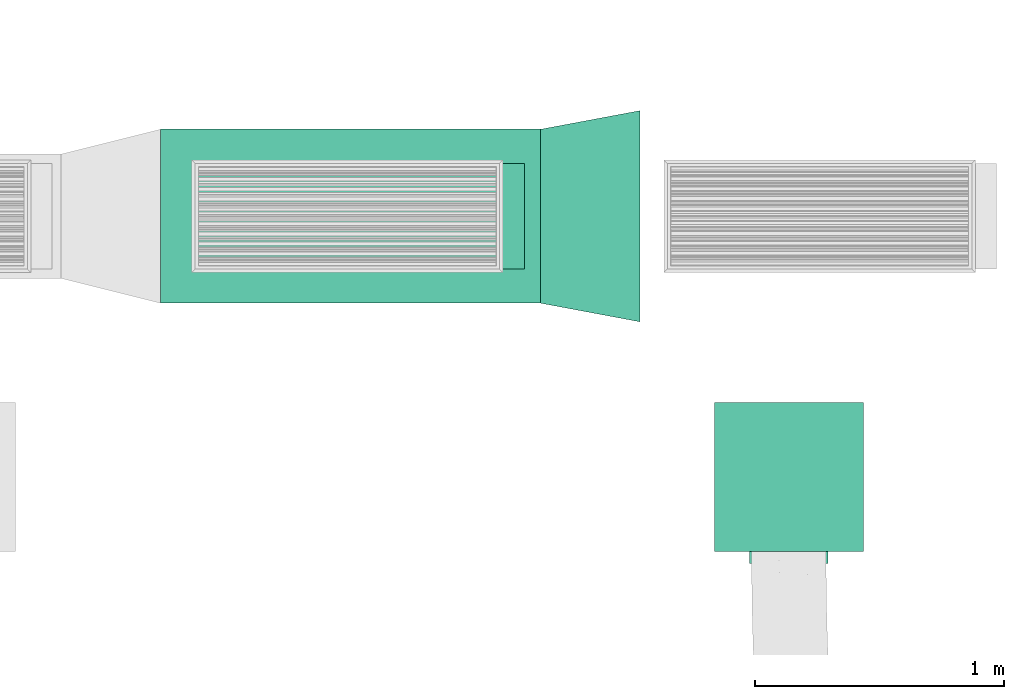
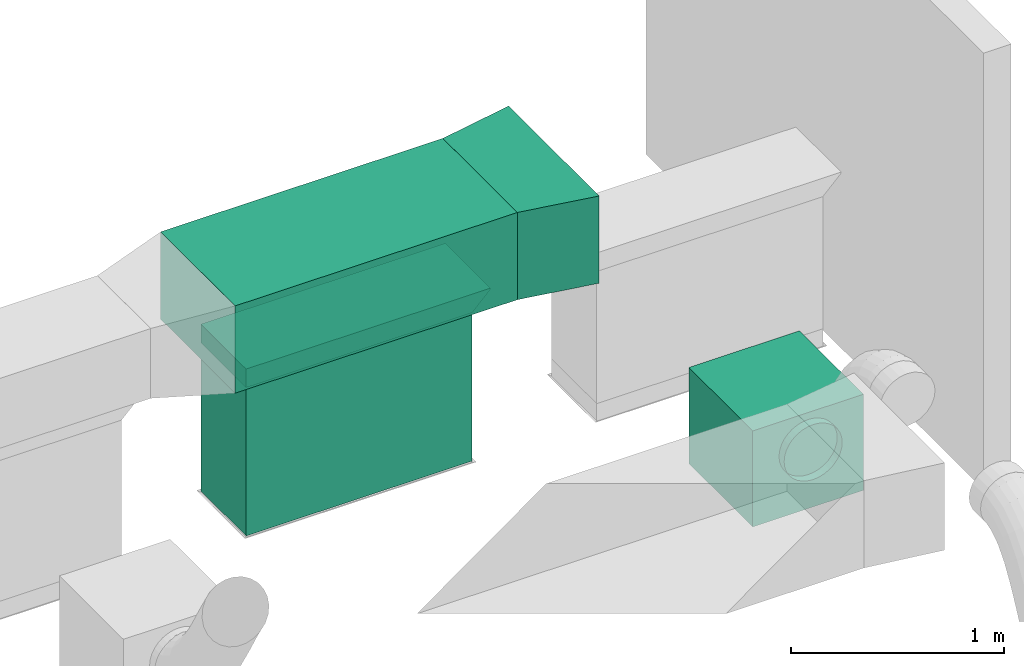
# One storey, part 11 of 60: 2 flow fittings, 2 flow segments, 1 flow terminal.
"""IFC2X3 building model written with IfcOpenShell, lengths in millimetres."""

from ifc_helpers import new_model, entity, si_unit, converted_unit, derived_unit, direction, frame, frame_2d, origin, place, context, subcontext, project, spatial, polyline, rectangle, outline, extrude, face_set, surface_model, source, transform, mapped, material, type_object, type_shapes, element, save


model = new_model("IFC2X3")

# Units and contexts
model_context = context("Model", 3, precision=0.01, world=origin(), true_north=direction((6.123233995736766e-17, 1.0)))
body_context = subcontext(model_context, "Body", "Model", "MODEL_VIEW")
ifc_project = project(units=[si_unit("LENGTHUNIT", "METRE", prefix="MILLI"), converted_unit("PLANEANGLEUNIT", "DEGREE", entity("IfcPlaneAngleMeasure", 0.017453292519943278), si_unit("PLANEANGLEUNIT", "RADIAN"), dimensions=[0, 0, 0, 0, 0, 0, 0]), si_unit("AREAUNIT", "SQUARE_METRE"), derived_unit("THERMALTRANSMITTANCEUNIT", [(si_unit("MASSUNIT", "GRAM", prefix="KILO"), 1), (si_unit("THERMODYNAMICTEMPERATUREUNIT", "KELVIN"), -1), (si_unit("TIMEUNIT", "SECOND"), -3)])], contexts=[model_context])

# Site, building, storey
site_placement = place(None, origin())
site = spatial("IfcSite", under=ifc_project, at=site_placement, Name="Default", CompositionType="ELEMENT")
building_placement = place(site_placement, origin())
building = spatial("IfcBuilding", under=site, at=building_placement, Name="Praça Pedro II, 1301 - Centro (Sul), Teresina - PI, 64001-100", CompositionType="ELEMENT")
storey_placement = place(building_placement, frame((0.0, 0.0, 6040.0)))
storey = spatial("IfcBuildingStorey", under=building, at=storey_placement, Name="2PAV", CompositionType="ELEMENT", Elevation=6040.0)

# Flow terminal
ifc_material = material(Name="<Unnamed>")
air_terminal_type = type_object("IfcAirTerminalType", Name="VD-HM 600:VD-HM 600", PredefinedType="NOTDEFINED", material=ifc_material)
shared_shape_1 = source(origin(), body_context, "Body", "SurfaceModel", [
    surface_model("IfcFaceBasedSurfaceModel", [(280.24999051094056, 280.0000057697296, -0.099993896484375), (-279.75000286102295, 280.0000057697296, -0.099993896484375), (-279.75000286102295, -280.0000057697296, -0.099993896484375), (280.24999051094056, -280.0000057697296, -0.099993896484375), (-300.75001101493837, 0.0, 510.50001697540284), (-300.75001101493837, -30.726726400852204, 507.4736755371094), (-300.75001101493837, 0.0, 353.0000012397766), (-300.75001101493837, -60.27264279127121, 498.51103219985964), (-300.75001101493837, -87.50230793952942, 483.9564700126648), (-300.75001101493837, -111.3693195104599, 464.3693298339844), (-300.75001101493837, -130.95645968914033, 440.5023273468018), (-300.75001101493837, -145.51102187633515, 413.272630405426), (-300.75001101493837, -154.47367429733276, 383.7267230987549), (-300.75001101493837, -157.4999975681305, 353.0000012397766), (-300.75001101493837, -154.47367429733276, 322.27327938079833), (-300.75001101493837, -145.51102187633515, 292.7273539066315), (-300.75001101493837, -130.95645968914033, 265.4976933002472), (-300.75001101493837, -111.3693195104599, 241.63069081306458), (-300.75001101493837, -87.50230793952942, 222.04353246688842), (-300.75001101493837, -60.27264279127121, 207.4889702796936), (-300.75001101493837, -30.726726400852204, 198.52632694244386), (-300.75001101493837, 0.0, 195.5000036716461), (-300.75001101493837, 30.726726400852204, 198.52632694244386), (-300.75001101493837, 60.27264279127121, 207.4889702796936), (-300.75001101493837, 87.50230793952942, 222.04353246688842), (-300.75001101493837, 111.3693195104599, 241.63069081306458), (-300.75001101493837, 130.95645968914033, 265.4976933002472), (-300.75001101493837, 145.51102187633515, 292.7273539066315), (-300.75001101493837, 154.47367429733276, 322.27327938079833), (-300.75001101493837, 157.4999975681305, 353.0000012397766), (-300.75001101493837, 154.47367429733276, 383.7267230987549), (-300.75001101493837, 145.51102187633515, 413.272630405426), (-300.75001101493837, 130.95645968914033, 440.5023273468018), (-300.75001101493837, 111.3693195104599, 464.3693298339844), (-300.75001101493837, 87.50230793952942, 483.9564700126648), (-300.75001101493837, 60.27264279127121, 498.51103219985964), (-300.75001101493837, 30.726726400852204, 507.4736755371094), (300.24998703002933, 300.0000022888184, 550.000004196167), (300.24998703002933, 300.0000022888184, 0.0), (-299.7499993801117, 300.0000022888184, 0.0), (-299.7499993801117, 300.0000022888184, 550.000004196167), (300.24998703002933, -300.0000022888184, 550.000004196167), (300.24998703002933, -300.0000022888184, 0.0), (-299.7499993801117, -300.0000022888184, 550.000004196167), (-299.7499993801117, -300.0000022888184, 0.0), (280.24999051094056, 280.0000057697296, -0.099993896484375), (10.250000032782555, 280.0000057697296, -0.099993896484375), (10.250000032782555, 256.6173123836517, -13.600005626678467), (280.24999051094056, 256.6173123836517, -13.600005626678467), (280.24999051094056, 253.0, -0.099993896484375), (10.250000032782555, 253.0, -0.099993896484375), (10.250000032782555, 229.61732525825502, -13.600005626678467), (280.24999051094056, 229.61732525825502, -13.600005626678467), (280.24999051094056, 225.99999518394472, -0.099993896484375), (10.250000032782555, 225.99999518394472, -0.099993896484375), (10.250000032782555, 202.61731996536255, -13.600005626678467), (280.24999051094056, 202.61731996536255, -13.600005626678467), (280.24999051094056, 199.000008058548, -0.099993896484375), (10.250000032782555, 199.000008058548, -0.099993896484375), (10.250000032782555, 175.6173146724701, -13.600005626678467), (280.24999051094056, 175.6173146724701, -13.600005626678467), (280.24999051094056, 172.00000276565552, -0.099993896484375), (10.250000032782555, 172.00000276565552, -0.099993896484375), (10.250000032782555, 148.61731846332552, -13.600005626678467), (280.24999051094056, 148.61731846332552, -13.600005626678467), (280.24999051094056, 144.99999747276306, -0.099993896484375), (10.250000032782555, 144.99999747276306, -0.099993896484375), (10.250000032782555, 121.61731317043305, -13.600005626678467), (280.24999051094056, 121.61731317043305, -13.600005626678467), (280.24999051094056, 118.00000126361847, -0.099993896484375), (10.250000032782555, 118.00000126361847, -0.099993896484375), (280.24999051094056, 94.61731696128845, -13.600005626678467), (10.250000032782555, 94.61731696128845, -13.600005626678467), (280.24999051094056, 90.99999597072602, -0.099993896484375), (10.250000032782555, 90.99999597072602, -0.099993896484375), (280.24999051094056, 67.61731621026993, -13.600005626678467), (10.250000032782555, 67.61731621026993, -13.600005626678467), (280.24999051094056, 63.99999976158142, -0.099993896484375), (10.250000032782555, 63.99999976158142, -0.099993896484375), (10.250000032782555, 40.61731545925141, -13.600005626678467), (280.24999051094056, 40.61731545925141, -13.600005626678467), (280.24999051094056, 36.999999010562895, -0.099993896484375), (10.250000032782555, 36.999999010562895, -0.099993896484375), (10.250000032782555, 13.617316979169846, -13.600005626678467), (280.24999051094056, 13.617316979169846, -13.600005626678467), (-9.74999989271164, -256.6173123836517, -13.600005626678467), (-279.75000286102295, -256.6173123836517, -13.600005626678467), (-279.75000286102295, -280.0000057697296, -0.099993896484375), (-9.74999989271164, -280.0000057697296, -0.099993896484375), (-9.74999989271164, -229.61732525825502, -13.600005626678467), (-279.75000286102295, -229.61732525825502, -13.600005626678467), (-279.75000286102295, -253.0, -0.099993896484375), (-9.74999989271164, -253.0, -0.099993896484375), (-9.74999989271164, -202.61731996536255, -13.600005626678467), (-279.75000286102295, -202.61731996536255, -13.600005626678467), (-279.75000286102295, -225.99999518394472, -0.099993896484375), (-9.74999989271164, -225.99999518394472, -0.099993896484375), (-9.74999989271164, -175.6173146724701, -13.600005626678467), (-279.75000286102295, -175.6173146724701, -13.600005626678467), (-279.75000286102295, -199.000008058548, -0.099993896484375), (-9.74999989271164, -199.000008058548, -0.099993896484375), (-9.74999989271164, -148.61731846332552, -13.600005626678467), (-279.75000286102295, -148.61731846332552, -13.600005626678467), (-279.75000286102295, -172.00000276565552, -0.099993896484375), (-9.74999989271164, -172.00000276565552, -0.099993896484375), (-9.74999989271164, -121.61731317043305, -13.600005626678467), (-279.75000286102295, -121.61731317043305, -13.600005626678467), (-279.75000286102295, -144.99999747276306, -0.099993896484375), (-9.74999989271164, -144.99999747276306, -0.099993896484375), (-9.74999989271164, -94.61731696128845, -13.600005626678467), (-279.75000286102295, -94.61731696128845, -13.600005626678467), (-279.75000286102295, -118.00000126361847, -0.099993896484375), (-9.74999989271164, -118.00000126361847, -0.099993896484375), (-9.74999989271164, -67.61731621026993, -13.600005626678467), (-279.75000286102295, -67.61731621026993, -13.600005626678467), (-279.75000286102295, -90.99999597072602, -0.099993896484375), (-9.74999989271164, -90.99999597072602, -0.099993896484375), (-9.74999989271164, -40.61731545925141, -13.600005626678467), (-279.75000286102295, -40.61731545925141, -13.600005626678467), (-279.75000286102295, -63.99999976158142, -0.099993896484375), (-9.74999989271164, -63.99999976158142, -0.099993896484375), (-9.74999989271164, -13.617316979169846, -13.600005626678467), (-279.75000286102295, -13.617316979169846, -13.600005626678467), (-279.75000286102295, -36.999999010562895, -0.099993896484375), (-9.74999989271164, -36.999999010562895, -0.099993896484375), (280.24999051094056, -10.000000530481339, -0.099993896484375), (256.100465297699, -10.000000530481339, -12.174765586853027), (256.100465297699, -280.0000057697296, -12.174765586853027), (280.24999051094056, -280.0000057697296, -0.099993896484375), (253.25000338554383, -10.000000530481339, -0.099993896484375), (229.10046000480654, -10.000000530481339, -12.174765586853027), (229.10046000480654, -280.0000057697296, -12.174765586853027), (253.25000338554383, -280.0000057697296, -0.099993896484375), (226.24999809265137, -10.000000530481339, -0.099993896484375), (202.10045471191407, -10.000000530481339, -12.174765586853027), (202.10045471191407, -280.0000057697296, -12.174765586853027), (226.24999809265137, -280.0000057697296, -0.099993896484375), (199.24999279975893, -10.000000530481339, -0.099993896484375), (175.10046758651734, -10.000000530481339, -12.174765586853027), (175.10046758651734, -280.0000057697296, -12.174765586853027), (199.24999279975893, -280.0000057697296, -0.099993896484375), (172.24998750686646, -10.000000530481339, -0.099993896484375), (148.10046229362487, -10.000000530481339, -12.174765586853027), (148.10046229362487, -280.0000057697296, -12.174765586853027), (172.24998750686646, -280.0000057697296, -0.099993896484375), (145.25000038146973, -10.000000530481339, -0.099993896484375), (121.10046608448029, -10.000000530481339, -12.174765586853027), (121.10046608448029, -280.0000057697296, -12.174765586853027), (145.25000038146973, -280.0000057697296, -0.099993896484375), (118.24999508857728, -10.000000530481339, -0.099993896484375), (94.10046079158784, -10.000000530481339, -12.174765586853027), (94.10046079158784, -280.0000057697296, -12.174765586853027), (118.24999508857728, -280.0000057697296, -0.099993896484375), (91.24999887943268, -10.000000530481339, -0.099993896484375), (67.10046912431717, -10.000000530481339, -12.174765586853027), (67.10046912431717, -280.0000057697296, -12.174765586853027), (91.24999887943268, -280.0000057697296, -0.099993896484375), (64.24999812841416, -10.000000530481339, -0.099993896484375), (40.100468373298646, -10.000000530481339, -12.174765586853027), (40.100468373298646, -280.0000057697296, -12.174765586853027), (64.24999812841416, -280.0000057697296, -0.099993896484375), (37.250001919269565, -10.000000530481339, -0.099993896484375), (13.100466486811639, -10.000000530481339, -12.174765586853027), (13.100466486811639, -280.0000057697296, -12.174765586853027), (37.250001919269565, -280.0000057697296, -0.099993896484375), (-279.75000286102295, 10.000000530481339, -0.099993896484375), (-255.6004776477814, 10.000000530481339, -12.174765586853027), (-255.6004776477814, 280.0000057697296, -12.174765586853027), (-279.75000286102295, 280.0000057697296, -0.099993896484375), (-252.7499975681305, 10.000000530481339, -0.099993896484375), (-228.60047235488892, 10.000000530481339, -12.174765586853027), (-228.60047235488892, 280.0000057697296, -12.174765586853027), (-252.7499975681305, 280.0000057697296, -0.099993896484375), (-225.75001044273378, 10.000000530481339, -0.099993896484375), (-201.60046706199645, 10.000000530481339, -12.174765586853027), (-201.60046706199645, 280.0000057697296, -12.174765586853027), (-225.75001044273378, 280.0000057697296, -0.099993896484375), (-198.75000514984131, 10.000000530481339, -0.099993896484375), (-174.60046176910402, 10.000000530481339, -12.174765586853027), (-174.60046176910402, 280.0000057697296, -12.174765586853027), (-198.75000514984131, 280.0000057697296, -0.099993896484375), (-171.74999985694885, 10.000000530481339, -0.099993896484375), (-147.60046555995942, 10.000000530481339, -12.174765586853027), (-147.60046555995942, 280.0000057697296, -12.174765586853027), (-171.74999985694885, 280.0000057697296, -0.099993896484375), (-144.75000364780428, 10.000000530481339, -0.099993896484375), (-120.60046935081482, 10.000000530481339, -12.174765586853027), (-120.60046935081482, 280.0000057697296, -12.174765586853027), (-144.75000364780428, 280.0000057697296, -0.099993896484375), (-117.75000743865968, 10.000000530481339, -0.099993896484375), (-93.60046405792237, 10.000000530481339, -12.174765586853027), (-93.60046405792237, 280.0000057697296, -12.174765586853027), (-117.75000743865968, 280.0000057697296, -0.099993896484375), (-90.75000214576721, 10.000000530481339, -0.099993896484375), (-66.60046330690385, 10.000000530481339, -12.174765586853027), (-66.60046330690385, 280.0000057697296, -12.174765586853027), (-90.75000214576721, 280.0000057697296, -0.099993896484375), (-63.75000139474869, 10.000000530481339, -0.099993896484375), (-39.60046709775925, 10.000000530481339, -12.174765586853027), (-39.60046709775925, 280.0000057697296, -12.174765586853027), (-63.75000139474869, 280.0000057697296, -0.099993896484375), (-36.75000064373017, 10.000000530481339, -0.099993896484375), (-12.600466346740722, 10.000000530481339, -12.174765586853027), (-12.600466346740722, 280.0000057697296, -12.174765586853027), (-36.75000064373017, 280.0000057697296, -0.099993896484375), (-299.7499993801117, 0.0, 510.50001697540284), (-299.7499993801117, 30.726726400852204, 507.4736755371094), (-347.74999465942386, 30.726726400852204, 507.4736755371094), (-347.74999465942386, 0.0, 510.50001697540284), (-299.7499993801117, 60.27264279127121, 498.51103219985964), (-347.74999465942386, 60.27264279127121, 498.51103219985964), (-299.7499993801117, 87.50230793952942, 483.9564700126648), (-347.74999465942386, 87.50230793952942, 483.9564700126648), (-299.7499993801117, 111.3693195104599, 464.3693298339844), (-347.74999465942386, 111.3693195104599, 464.3693298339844), (-299.7499993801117, 130.95645968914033, 440.5023273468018), (-347.74999465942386, 130.95645968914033, 440.5023273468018), (-299.7499993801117, 145.51102187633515, 413.272630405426), (-347.74999465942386, 145.51102187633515, 413.272630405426), (-299.7499993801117, 154.47367429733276, 383.7267230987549), (-347.74999465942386, 154.47367429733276, 383.7267230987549), (-299.7499993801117, 157.4999975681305, 353.0000012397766), (-347.74999465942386, 157.4999975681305, 353.0000012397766), (-299.7499993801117, 154.47367429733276, 322.27327938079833), (-347.74999465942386, 154.47367429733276, 322.27327938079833), (-299.7499993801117, 145.51102187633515, 292.7273539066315), (-347.74999465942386, 145.51102187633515, 292.7273539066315), (-299.7499993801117, 130.95645968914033, 265.4976933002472), (-347.74999465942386, 130.95645968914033, 265.4976933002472), (-299.7499993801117, 111.3693195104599, 241.63069081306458), (-347.74999465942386, 111.3693195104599, 241.63069081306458), (-299.7499993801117, 87.50230793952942, 222.04353246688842), (-347.74999465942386, 87.50230793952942, 222.04353246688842), (-299.7499993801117, 60.27264279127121, 207.4889702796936), (-347.74999465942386, 60.27264279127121, 207.4889702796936), (-299.7499993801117, 30.726726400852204, 198.52632694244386), (-347.74999465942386, 30.726726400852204, 198.52632694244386), (-299.7499993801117, 0.0, 195.5000036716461), (-347.74999465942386, 0.0, 195.5000036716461), (-299.7499993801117, -30.726726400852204, 198.52632694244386), (-347.74999465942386, -30.726726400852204, 198.52632694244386), (-299.7499993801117, -60.27264279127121, 207.4889702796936), (-347.74999465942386, -60.27264279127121, 207.4889702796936), (-299.7499993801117, -87.50230793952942, 222.04353246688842), (-347.74999465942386, -87.50230793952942, 222.04353246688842), (-299.7499993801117, -111.3693195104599, 241.63069081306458), (-347.74999465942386, -111.3693195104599, 241.63069081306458), (-299.7499993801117, -130.95645968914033, 265.4976933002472), (-347.74999465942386, -130.95645968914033, 265.4976933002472), (-299.7499993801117, -145.51102187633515, 292.7273539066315), (-347.74999465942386, -145.51102187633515, 292.7273539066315), (-299.7499993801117, -154.47367429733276, 322.27327938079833), (-347.74999465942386, -154.47367429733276, 322.27327938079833), (-299.7499993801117, -157.4999975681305, 353.0000012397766), (-347.74999465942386, -157.4999975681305, 353.0000012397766), (-299.7499993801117, -154.47367429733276, 383.7267230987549), (-347.74999465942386, -154.47367429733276, 383.7267230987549), (-299.7499993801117, -145.51102187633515, 413.272630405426), (-347.74999465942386, -145.51102187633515, 413.272630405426), (-299.7499993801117, -130.95645968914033, 440.5023273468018), (-347.74999465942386, -130.95645968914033, 440.5023273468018), (-299.7499993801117, -111.3693195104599, 464.3693298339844), (-347.74999465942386, -111.3693195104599, 464.3693298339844), (-299.7499993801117, -87.50230793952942, 483.9564700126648), (-347.74999465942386, -87.50230793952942, 483.9564700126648), (-299.7499993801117, -60.27264279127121, 498.51103219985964), (-347.74999465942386, -60.27264279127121, 498.51103219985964), (-299.7499993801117, -30.726726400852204, 507.4736755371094), (-347.74999465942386, -30.726726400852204, 507.4736755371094), (-279.75000286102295, 10.000000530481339, -0.20000596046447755), (-279.75000286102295, -10.000000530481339, -0.20000596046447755), (280.24999051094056, -10.000000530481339, -0.20000596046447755), (280.24999051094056, 10.000000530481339, -0.20000596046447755), (10.250000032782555, 280.0000057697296, -0.20000596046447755), (-9.74999989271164, 280.0000057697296, -0.20000596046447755), (-9.74999989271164, -280.0000057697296, -0.20000596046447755), (10.250000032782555, -280.0000057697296, -0.20000596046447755)], [face_set([[[0, 1, 2]], [[0, 2, 3]], [[4, 5, 6]], [[5, 7, 6]], [[7, 8, 6]], [[8, 9, 6]], [[9, 10, 6]], [[10, 11, 6]], [[11, 12, 6]], [[12, 13, 6]], [[13, 14, 6]], [[14, 15, 6]], [[15, 16, 6]], [[16, 17, 6]], [[17, 18, 6]], [[18, 19, 6]], [[19, 20, 6]], [[20, 21, 6]], [[21, 22, 6]], [[22, 23, 6]], [[23, 24, 6]], [[24, 25, 6]], [[25, 26, 6]], [[26, 27, 6]], [[27, 28, 6]], [[28, 29, 6]], [[29, 30, 6]], [[30, 31, 6]], [[31, 32, 6]], [[32, 33, 6]], [[33, 34, 6]], [[34, 35, 6]], [[35, 36, 6]], [[36, 4, 6]]]), face_set([[[37, 38, 39]], [[37, 39, 40]], [[41, 42, 38]], [[41, 38, 37]], [[43, 44, 42]], [[43, 42, 41]], [[40, 39, 44]], [[40, 44, 43]], [[43, 41, 37]], [[43, 37, 40]], [[44, 42, 38]], [[44, 38, 39]], [[45, 46, 47]], [[45, 47, 48]], [[49, 50, 51]], [[49, 51, 52]], [[53, 54, 55]], [[53, 55, 56]], [[57, 58, 59]], [[57, 59, 60]], [[61, 62, 63]], [[61, 63, 64]], [[65, 66, 67]], [[65, 67, 68]], [[69, 70, 71]], [[70, 72, 71]], [[73, 74, 75]], [[74, 76, 75]], [[77, 78, 79]], [[77, 79, 80]], [[81, 82, 83]], [[81, 83, 84]], [[85, 86, 87]], [[85, 87, 88]], [[89, 90, 91]], [[89, 91, 92]], [[93, 94, 95]], [[93, 95, 96]], [[97, 98, 99]], [[97, 99, 100]], [[101, 102, 103]], [[101, 103, 104]], [[105, 106, 107]], [[105, 107, 108]], [[109, 110, 111]], [[109, 111, 112]], [[113, 114, 115]], [[113, 115, 116]], [[117, 118, 119]], [[117, 119, 120]], [[121, 122, 123]], [[121, 123, 124]], [[125, 126, 127]], [[125, 127, 128]], [[129, 130, 131]], [[129, 131, 132]], [[133, 134, 135]], [[133, 135, 136]], [[137, 138, 139]], [[137, 139, 140]], [[141, 142, 143]], [[141, 143, 144]], [[145, 146, 147]], [[145, 147, 148]], [[149, 150, 151]], [[149, 151, 152]], [[153, 154, 155]], [[153, 155, 156]], [[157, 158, 159]], [[157, 159, 160]], [[161, 162, 163]], [[161, 163, 164]], [[165, 166, 167]], [[165, 167, 168]], [[169, 170, 171]], [[169, 171, 172]], [[173, 174, 175]], [[173, 175, 176]], [[177, 178, 179]], [[177, 179, 180]], [[181, 182, 183]], [[181, 183, 184]], [[185, 186, 187]], [[185, 187, 188]], [[189, 190, 191]], [[189, 191, 192]], [[193, 194, 195]], [[193, 195, 196]], [[197, 198, 199]], [[197, 199, 200]], [[201, 202, 203]], [[201, 203, 204]], [[205, 206, 207]], [[205, 207, 208]], [[206, 209, 210]], [[206, 210, 207]], [[209, 211, 212]], [[209, 212, 210]], [[211, 213, 214]], [[211, 214, 212]], [[213, 215, 216]], [[213, 216, 214]], [[215, 217, 218]], [[215, 218, 216]], [[217, 219, 220]], [[217, 220, 218]], [[219, 221, 222]], [[219, 222, 220]], [[221, 223, 224]], [[221, 224, 222]], [[223, 225, 226]], [[223, 226, 224]], [[225, 227, 228]], [[225, 228, 226]], [[227, 229, 230]], [[227, 230, 228]], [[229, 231, 232]], [[229, 232, 230]], [[231, 233, 234]], [[231, 234, 232]], [[233, 235, 236]], [[233, 236, 234]], [[235, 237, 238]], [[235, 238, 236]], [[237, 239, 240]], [[237, 240, 238]], [[239, 241, 242]], [[239, 242, 240]], [[241, 243, 244]], [[241, 244, 242]], [[243, 245, 246]], [[243, 246, 244]], [[245, 247, 248]], [[245, 248, 246]], [[247, 249, 250]], [[247, 250, 248]], [[249, 251, 252]], [[249, 252, 250]], [[251, 253, 254]], [[251, 254, 252]], [[253, 255, 256]], [[253, 256, 254]], [[255, 257, 258]], [[255, 258, 256]], [[257, 259, 260]], [[257, 260, 258]], [[259, 261, 262]], [[259, 262, 260]], [[261, 263, 264]], [[261, 264, 262]], [[263, 265, 266]], [[263, 266, 264]], [[265, 267, 268]], [[265, 268, 266]], [[267, 205, 208]], [[267, 208, 268]]]), face_set([[[269, 270, 271]], [[269, 271, 272]], [[273, 274, 275]], [[273, 275, 276]]])]),
])
type_shapes(air_terminal_type, [shared_shape_1])
flow_terminal_placement = place(storey_placement, frame((29923.32600857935, -56621.15099926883, 2310.0), z_axis=(0.0, 0.0, 1.0), x_axis=(0.0, 1.0, 0.0)))
element("IfcFlowTerminal", 1, at=flow_terminal_placement, inside=storey, type_object=air_terminal_type, material=ifc_material, Name="VD-HM 600:VD-HM 600", ObjectType="VD-HM 600:VD-HM 600", context=body_context, shape_type="MappedRepresentation", body=[
    mapped(shared_shape_1, transform((0.0, 0.0, 0.0), scale=1.0)),
])

# Flow segments
duct_segment_type = type_object("IfcDuctSegmentType", Name="Duto retangular:Raios cotovelos / torneiras", PredefinedType="NOTDEFINED")
flow_segment_1_placement = place(storey_placement, origin())
element("IfcFlowSegment", 2, at=flow_segment_1_placement, inside=storey, type_object=duct_segment_type, Name="Duto retangular:Raios cotovelos / torneiras", ObjectType="Duto retangular:Raios cotovelos / torneiras", context=body_context, shape_type="SweptSolid", body=[
    extrude(rectangle(XDim=1529.497355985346, YDim=699.9999999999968, at=frame_2d((2.1600499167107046e-12, 0.0), x_axis=(1.0, 0.0))), frame((28160.36071212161, -55571.29390261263, 3250.0)), (0.0, 0.0, 1.0), 500.00000000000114),
])
flow_segment_2_placement = place(storey_placement, origin())
element("IfcFlowSegment", 3, at=flow_segment_2_placement, inside=storey, type_object=duct_segment_type, Name="Duto retangular:Raios cotovelos / torneiras", ObjectType="Duto retangular:Raios cotovelos / torneiras", context=body_context, shape_type="SweptSolid", body=[
    extrude(rectangle(XDim=425.00000000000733, YDim=1224.9999999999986, at=frame_2d((-8.668621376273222e-12, 0.0), x_axis=(1.0, 0.0))), frame((28146.91129512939, -55571.293902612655, 2300.0), z_axis=(0.0, 0.0, 1.0), x_axis=(0.0, -1.0, 0.0)), (0.0, 0.0, 1.0), 849.9999999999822),
])

# Flow fittings
duct_fitting_type_1 = type_object("IfcDuctFittingType", Name="M_Rectangular Transition - L:400 mm (L)", PredefinedType="NOTDEFINED", material=ifc_material)
shared_shape_2 = source(origin(), body_context, "Body", "SweptSolid", [
    extrude(outline(polyline([(-132.07345011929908, -380.8629724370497), (274.89706478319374, -380.8629724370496), (118.25180999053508, 454.57838645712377), (-261.0754246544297, 307.1475584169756), (-132.07345011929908, -380.8629724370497)])), frame((200.0, 0.0, -250.0), z_axis=(0.0, 0.0, 1.0), x_axis=(0.9828721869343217, -0.18428853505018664, 0.0)), (0.0, 0.0, 1.0), 500.00000000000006),
])
type_shapes(duct_fitting_type_1, [shared_shape_2])
flow_fitting_1_placement = place(storey_placement, frame((28925.10939011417, -55571.293902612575, 3500.0)))
element("IfcFlowFitting", 4, at=flow_fitting_1_placement, inside=storey, type_object=duct_fitting_type_1, material=ifc_material, Name="M_Rectangular Transition - L:400 mm (L)", ObjectType="M_Rectangular Transition - L:400 mm (L)", context=body_context, shape_type="MappedRepresentation", body=[
    mapped(shared_shape_2, transform((0.0, 0.0, 0.0), scale=1.0)),
])
duct_fitting_type_2 = type_object("IfcDuctFittingType", Name="M_Rectangular Tap - Beveled:Standard", PredefinedType="NOTDEFINED", material=ifc_material)
shared_shape_3 = source(origin(), body_context, "Body", "SweptSolid", [
    extrude(outline(polyline([(-775.0, -62.438400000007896), (450.0, -62.438400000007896), (550.0, 37.56159999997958), (550.0, 43.6576000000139), (-775.0, 43.65760000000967), (-775.0, -62.438400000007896)])), frame((37.56159999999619, 162.50000000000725, -212.49999999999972), z_axis=(0.0, 0.0, 1.0), x_axis=(0.0, 1.0, 0.0)), (0.0, 0.0, 1.0), 424.99999999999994),
])
type_shapes(duct_fitting_type_2, [shared_shape_3])
flow_fitting_2_placement = place(storey_placement, frame((28146.911295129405, -55571.293902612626, 3250.0), z_axis=(0.0, -1.0, 0.0), x_axis=(0.0, 0.0, -1.0)))
element("IfcFlowFitting", 5, at=flow_fitting_2_placement, inside=storey, type_object=duct_fitting_type_2, material=ifc_material, Name="M_Rectangular Tap - Beveled:Standard", ObjectType="M_Rectangular Tap - Beveled:Standard", context=body_context, shape_type="MappedRepresentation", body=[
    mapped(shared_shape_3, transform((0.0, 0.0, 0.0), scale=1.0)),
])

save(model, "model.ifc")
